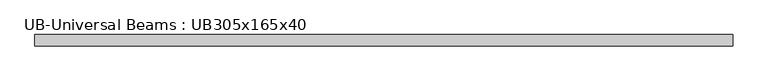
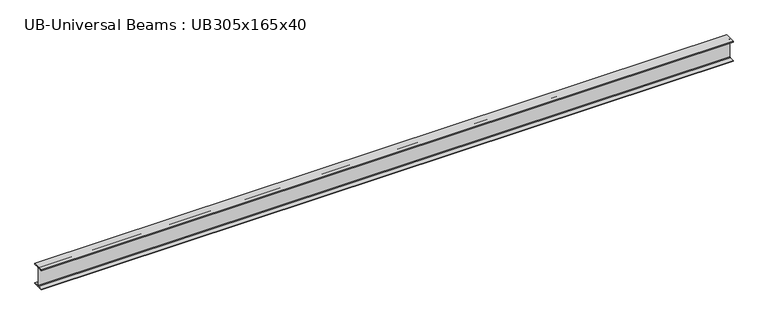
"""IFC4 building model written with IfcOpenShell, lengths in millimetres: beam geometry, UB-Universal Beams : UB305x165x40."""

from ifc_helpers import new_model, si_unit, point, frame, frame_2d, origin, place, context, project, spatial, polyline, circle_curve, trimmed, segment, composite_curve, outline, extrude, source, transform, mapped, element, save


def ub_universal_beams_ub305x165x40_58b05e4c(model_context):
    return source(origin(), model_context, "Body", "SweptSolid", [
        extrude(outline(composite_curve([segment(polyline([(82.5, -141.5), (82.5, -151.7), (-82.5, -151.7), (-82.5, -141.5), (-11.9, -141.5)]), True, "CONTINUOUS"), segment(trimmed(circle_curve(frame_2d((-11.9, -132.6)), 8.9), [point((-11.9, -141.5))], [point((-3.0, -132.6))], True, "CARTESIAN"), True, "CONTINUOUS"), segment(polyline([(-3.0, -132.6), (-3.0, 132.6)]), True, "CONTINUOUS"), segment(trimmed(circle_curve(frame_2d((-11.9, 132.6)), 8.9), [point((-3.0, 132.6))], [point((-11.9, 141.5))], True, "CARTESIAN"), True, "CONTINUOUS"), segment(polyline([(-11.9, 141.5), (-82.5, 141.5), (-82.5, 151.7), (82.5, 151.7), (82.5, 141.5), (11.9, 141.5)]), True, "CONTINUOUS"), segment(trimmed(circle_curve(frame_2d((11.9, 132.6)), 8.9), [point((11.9, 141.5))], [point((3.0, 132.6))], True, "CARTESIAN"), True, "CONTINUOUS"), segment(polyline([(3.0, 132.6), (3.0, -132.6)]), True, "CONTINUOUS"), segment(trimmed(circle_curve(frame_2d((11.9, -132.6)), 8.9), [point((3.0, -132.6))], [point((11.9, -141.5))], True, "CARTESIAN"), True, "CONTINUOUS"), segment(polyline([(11.9, -141.5), (82.5, -141.5)]), True, "CONTINUOUS")], self_intersect=False)), frame((-4991.35, 0.0, 0.0), z_axis=(1.0, 0.0, 0.0), x_axis=(0.0, 1.0, 0.0)), (0.0, 0.0, 1.0), 10037.2),
    ])


if __name__ == "__main__":
    model = new_model("IFC4")
    model_context = context("Model", 3, world=origin())
    ifc_project = project(units=[si_unit("LENGTHUNIT", "METRE", prefix="MILLI")], contexts=[model_context])
    site = spatial("IfcSite", under=ifc_project)
    building = spatial("IfcBuilding", under=site)
    placement = place(None, origin())
    ub_universal_beams_ub305x165x40_shape = ub_universal_beams_ub305x165x40_58b05e4c(model_context)
    element("IfcBeam", 1, ObjectType="UB-Universal Beams : UB305x165x40", at=placement, inside=building, context=model_context, shape_type="MappedRepresentation", body=[
        mapped(ub_universal_beams_ub305x165x40_shape, transform((0.0, 0.0, 0.0), x_axis=(1.0, 0.0, 0.0), y_axis=(0.0, 1.0, 0.0), z_axis=(0.0, 0.0, 1.0))),
    ])
    save(model, "model.ifc")
